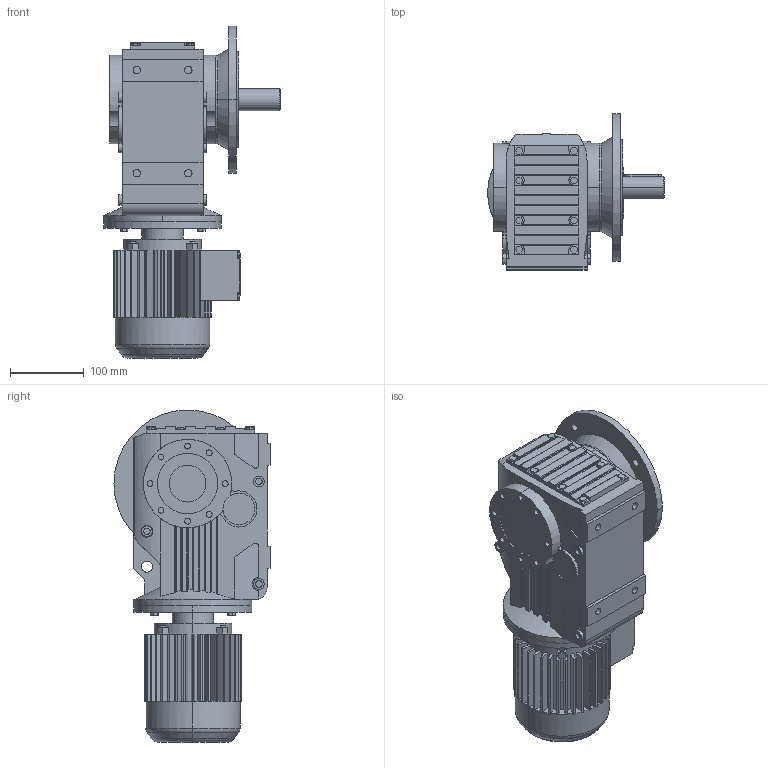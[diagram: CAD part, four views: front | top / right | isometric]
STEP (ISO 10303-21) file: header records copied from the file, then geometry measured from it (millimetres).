
FILE_DESCRIPTION(('Open CASCADE Model'),'2;1');
FILE_NAME('Open CASCADE Shape Model','2018-09-13T11:12:18',('Author'),( 'Open CASCADE'),'Open CASCADE STEP processor 6.3','Open CASCADE 6.3' ,'Unknown');
FILE_SCHEMA(('AUTOMOTIVE_DESIGN_CC2 { 1 2 10303 214 -1 1 5 4 }'));
Length unit declared in the file: millimetre
Products named in the file (5): 49_KF47DR63-A; KA37‵107_47.step; 萇儂_160-DR63-185-240-132-105.step; す瑩妗陑粣K_47.step; 楊擘K_47.step
Assembly tree (4 placements, depth 2):
  49_KF47DR63-A
    KA37‵107_47.step
    萇儂_160-DR63-185-240-132-105.step
    す瑩妗陑粣K_47.step
    楊擘K_47.step
Bounding box: 240 x 212 x 451 mm (x, y, z)
Volume: 7488147.8 mm3; surface area: 551817.8 mm2
Topology: 4 solids, 4 shells, 877 faces, 2276 edges, 1480 vertices
Faces by surface type: plane 558, cylinder 301, cone 14, torus 4
Entity records: 65646 total; most frequent: CARTESIAN_POINT 23045, DIRECTION 7110, ORIENTED_EDGE 4548, PCURVE 4548, DEFINITIONAL_REPRESENTATION 4548, LINE 3615, VECTOR 3615, EDGE_CURVE 2274
